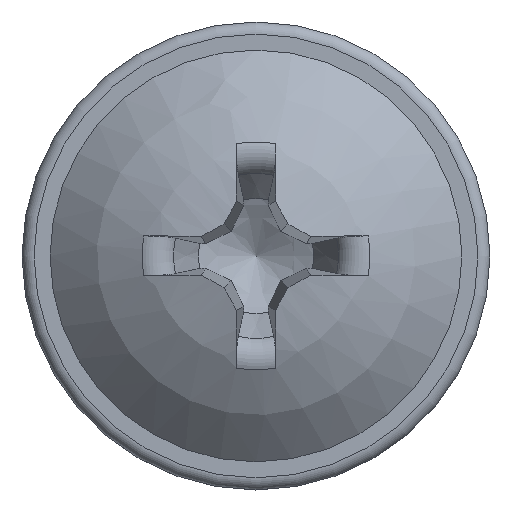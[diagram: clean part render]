
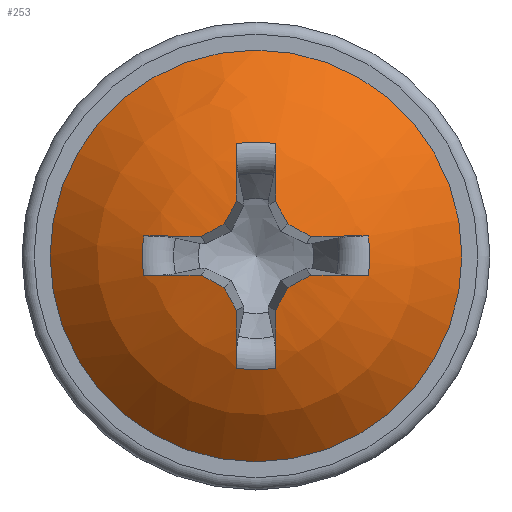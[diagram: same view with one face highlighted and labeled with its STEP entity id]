
A CAD part, top view. The second image highlights one B-rep face of the part: STEP entity #253.
In plain terms, the highlighted spherical face has radius 9.252 mm.
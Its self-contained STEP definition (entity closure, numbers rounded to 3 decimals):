
#214=SPHERICAL_SURFACE('',#1404,9.252);
#225=FACE_BOUND('',#419,.T.);
#226=FACE_BOUND('',#420,.T.);
#253=ADVANCED_FACE('',(#225,#226),#214,.T.);
#419=EDGE_LOOP('',(#582));
#420=EDGE_LOOP('',(#583,#584,#585,#586,#587,#588,#589,#590,#591,#592,#593,
#594,#595,#596,#597,#598,#599,#600,#601,#602));
#514=CIRCLE('',#1383,6.82);
#515=CIRCLE('',#1384,9.25);
#516=CIRCLE('',#1385,3.776);
#517=CIRCLE('',#1386,9.25);
#518=CIRCLE('',#1387,9.238);
#519=CIRCLE('',#1388,9.238);
#520=CIRCLE('',#1389,9.25);
#521=CIRCLE('',#1390,3.776);
#522=CIRCLE('',#1391,9.25);
#523=CIRCLE('',#1392,9.238);
#524=CIRCLE('',#1393,9.238);
#525=CIRCLE('',#1394,9.25);
#526=CIRCLE('',#1395,3.776);
#527=CIRCLE('',#1396,9.25);
#528=CIRCLE('',#1397,9.238);
#529=CIRCLE('',#1398,9.238);
#530=CIRCLE('',#1399,9.25);
#531=CIRCLE('',#1400,3.776);
#532=CIRCLE('',#1401,9.25);
#533=CIRCLE('',#1402,9.238);
#534=CIRCLE('',#1403,9.238);
#582=ORIENTED_EDGE('',*,*,#1103,.T.);
#583=ORIENTED_EDGE('',*,*,#1104,.F.);
#584=ORIENTED_EDGE('',*,*,#1105,.T.);
#585=ORIENTED_EDGE('',*,*,#1106,.F.);
#586=ORIENTED_EDGE('',*,*,#1107,.F.);
#587=ORIENTED_EDGE('',*,*,#1108,.F.);
#588=ORIENTED_EDGE('',*,*,#1109,.F.);
#589=ORIENTED_EDGE('',*,*,#1110,.T.);
#590=ORIENTED_EDGE('',*,*,#1111,.F.);
#591=ORIENTED_EDGE('',*,*,#1112,.F.);
#592=ORIENTED_EDGE('',*,*,#1113,.F.);
#593=ORIENTED_EDGE('',*,*,#1114,.F.);
#594=ORIENTED_EDGE('',*,*,#1115,.T.);
#595=ORIENTED_EDGE('',*,*,#1116,.F.);
#596=ORIENTED_EDGE('',*,*,#1117,.F.);
#597=ORIENTED_EDGE('',*,*,#1118,.F.);
#598=ORIENTED_EDGE('',*,*,#1119,.F.);
#599=ORIENTED_EDGE('',*,*,#1120,.T.);
#600=ORIENTED_EDGE('',*,*,#1121,.F.);
#601=ORIENTED_EDGE('',*,*,#1122,.F.);
#602=ORIENTED_EDGE('',*,*,#1123,.F.);
#976=VERTEX_POINT('',#2682);
#977=VERTEX_POINT('',#2684);
#978=VERTEX_POINT('',#2685);
#979=VERTEX_POINT('',#2687);
#980=VERTEX_POINT('',#2689);
#981=VERTEX_POINT('',#2691);
#982=VERTEX_POINT('',#2693);
#983=VERTEX_POINT('',#2695);
#984=VERTEX_POINT('',#2697);
#985=VERTEX_POINT('',#2699);
#986=VERTEX_POINT('',#2701);
#987=VERTEX_POINT('',#2703);
#988=VERTEX_POINT('',#2705);
#989=VERTEX_POINT('',#2707);
#990=VERTEX_POINT('',#2709);
#991=VERTEX_POINT('',#2711);
#992=VERTEX_POINT('',#2713);
#993=VERTEX_POINT('',#2715);
#994=VERTEX_POINT('',#2717);
#995=VERTEX_POINT('',#2719);
#996=VERTEX_POINT('',#2721);
#1103=EDGE_CURVE('',#976,#976,#514,.T.);
#1104=EDGE_CURVE('',#977,#978,#515,.T.);
#1105=EDGE_CURVE('',#977,#979,#516,.T.);
#1106=EDGE_CURVE('',#980,#979,#517,.T.);
#1107=EDGE_CURVE('',#981,#980,#518,.T.);
#1108=EDGE_CURVE('',#982,#981,#519,.T.);
#1109=EDGE_CURVE('',#983,#982,#520,.T.);
#1110=EDGE_CURVE('',#983,#984,#521,.T.);
#1111=EDGE_CURVE('',#985,#984,#522,.T.);
#1112=EDGE_CURVE('',#986,#985,#523,.T.);
#1113=EDGE_CURVE('',#987,#986,#524,.T.);
#1114=EDGE_CURVE('',#988,#987,#525,.T.);
#1115=EDGE_CURVE('',#988,#989,#526,.T.);
#1116=EDGE_CURVE('',#990,#989,#527,.T.);
#1117=EDGE_CURVE('',#991,#990,#528,.T.);
#1118=EDGE_CURVE('',#992,#991,#529,.T.);
#1119=EDGE_CURVE('',#993,#992,#530,.T.);
#1120=EDGE_CURVE('',#993,#994,#531,.T.);
#1121=EDGE_CURVE('',#995,#994,#532,.T.);
#1122=EDGE_CURVE('',#996,#995,#533,.T.);
#1123=EDGE_CURVE('',#978,#996,#534,.T.);
#1383=AXIS2_PLACEMENT_3D('',#2681,#1470,#1471);
#1384=AXIS2_PLACEMENT_3D('',#2683,#1472,#1473);
#1385=AXIS2_PLACEMENT_3D('',#2686,#1474,#1475);
#1386=AXIS2_PLACEMENT_3D('',#2688,#1476,#1477);
#1387=AXIS2_PLACEMENT_3D('',#2690,#1478,#1479);
#1388=AXIS2_PLACEMENT_3D('',#2692,#1480,#1481);
#1389=AXIS2_PLACEMENT_3D('',#2694,#1482,#1483);
#1390=AXIS2_PLACEMENT_3D('',#2696,#1484,#1485);
#1391=AXIS2_PLACEMENT_3D('',#2698,#1486,#1487);
#1392=AXIS2_PLACEMENT_3D('',#2700,#1488,#1489);
#1393=AXIS2_PLACEMENT_3D('',#2702,#1490,#1491);
#1394=AXIS2_PLACEMENT_3D('',#2704,#1492,#1493);
#1395=AXIS2_PLACEMENT_3D('',#2706,#1494,#1495);
#1396=AXIS2_PLACEMENT_3D('',#2708,#1496,#1497);
#1397=AXIS2_PLACEMENT_3D('',#2710,#1498,#1499);
#1398=AXIS2_PLACEMENT_3D('',#2712,#1500,#1501);
#1399=AXIS2_PLACEMENT_3D('',#2714,#1502,#1503);
#1400=AXIS2_PLACEMENT_3D('',#2716,#1504,#1505);
#1401=AXIS2_PLACEMENT_3D('',#2718,#1506,#1507);
#1402=AXIS2_PLACEMENT_3D('',#2720,#1508,#1509);
#1403=AXIS2_PLACEMENT_3D('',#2722,#1510,#1511);
#1404=AXIS2_PLACEMENT_3D('',#2723,#1512,#1513);
#1470=DIRECTION('',(0.,0.,1.));
#1471=DIRECTION('',(1.,0.,0.));
#1472=DIRECTION('',(-0.996,-0.035,0.087));
#1473=DIRECTION('',(0.087,0.,0.996));
#1474=DIRECTION('',(0.,0.,-1.));
#1475=DIRECTION('',(-1.,0.,0.));
#1476=DIRECTION('',(0.996,-0.035,0.087));
#1477=DIRECTION('',(0.087,0.,-0.996));
#1478=DIRECTION('',(0.879,0.467,0.1));
#1479=DIRECTION('',(-0.469,0.883,0.));
#1480=DIRECTION('',(0.467,0.879,0.1));
#1481=DIRECTION('',(-0.883,0.469,0.));
#1482=DIRECTION('',(-0.035,0.996,0.087));
#1483=DIRECTION('',(0.,-0.087,0.996));
#1484=DIRECTION('',(0.,0.,-1.));
#1485=DIRECTION('',(-1.,0.,0.));
#1486=DIRECTION('',(-0.035,-0.996,0.087));
#1487=DIRECTION('',(0.,-0.087,-0.996));
#1488=DIRECTION('',(0.467,-0.879,0.1));
#1489=DIRECTION('',(0.883,0.469,0.));
#1490=DIRECTION('',(0.879,-0.467,0.1));
#1491=DIRECTION('',(0.469,0.883,0.));
#1492=DIRECTION('',(0.996,0.035,0.087));
#1493=DIRECTION('',(0.087,0.,-0.996));
#1494=DIRECTION('',(0.,0.,-1.));
#1495=DIRECTION('',(-1.,0.,0.));
#1496=DIRECTION('',(-0.996,0.035,0.087));
#1497=DIRECTION('',(0.087,0.,0.996));
#1498=DIRECTION('',(-0.879,-0.467,0.1));
#1499=DIRECTION('',(0.469,-0.883,0.));
#1500=DIRECTION('',(-0.467,-0.879,0.1));
#1501=DIRECTION('',(0.883,-0.469,0.));
#1502=DIRECTION('',(0.035,-0.996,0.087));
#1503=DIRECTION('',(0.,-0.087,-0.996));
#1504=DIRECTION('',(0.,0.,-1.));
#1505=DIRECTION('',(-1.,0.,0.));
#1506=DIRECTION('',(0.035,0.996,0.087));
#1507=DIRECTION('',(0.,-0.087,0.996));
#1508=DIRECTION('',(-0.467,0.879,0.1));
#1509=DIRECTION('',(-0.883,-0.469,0.));
#1510=DIRECTION('',(-0.879,0.467,0.1));
#1511=DIRECTION('',(-0.469,-0.883,0.));
#1512=DIRECTION('',(0.,0.,1.));
#1513=DIRECTION('',(0.,1.,0.));
#2681=CARTESIAN_POINT('',(0.,0.,1.6));
#2682=CARTESIAN_POINT('',(6.82,0.,1.6));
#2683=CARTESIAN_POINT('',(-0.209,-0.007,-4.634));
#2684=CARTESIAN_POINT('',(0.658,-3.718,3.795));
#2685=CARTESIAN_POINT('',(0.644,-1.809,4.399));
#2686=CARTESIAN_POINT('',(0.,0.,3.795));
#2687=CARTESIAN_POINT('',(-0.658,-3.718,3.795));
#2688=CARTESIAN_POINT('',(0.209,-0.007,-4.634));
#2689=CARTESIAN_POINT('',(-0.644,-1.809,4.399));
#2690=CARTESIAN_POINT('',(-0.443,-0.235,-4.703));
#2691=CARTESIAN_POINT('',(-1.055,-1.055,4.479));
#2692=CARTESIAN_POINT('',(-0.235,-0.443,-4.703));
#2693=CARTESIAN_POINT('',(-1.809,-0.644,4.399));
#2694=CARTESIAN_POINT('',(-0.007,0.209,-4.634));
#2695=CARTESIAN_POINT('',(-3.718,-0.658,3.795));
#2696=CARTESIAN_POINT('',(0.,0.,3.795));
#2697=CARTESIAN_POINT('',(-3.718,0.658,3.795));
#2698=CARTESIAN_POINT('',(-0.007,-0.209,-4.634));
#2699=CARTESIAN_POINT('',(-1.809,0.644,4.399));
#2700=CARTESIAN_POINT('',(-0.235,0.443,-4.703));
#2701=CARTESIAN_POINT('',(-1.055,1.055,4.479));
#2702=CARTESIAN_POINT('',(-0.443,0.235,-4.703));
#2703=CARTESIAN_POINT('',(-0.644,1.809,4.399));
#2704=CARTESIAN_POINT('',(0.209,0.007,-4.634));
#2705=CARTESIAN_POINT('',(-0.658,3.718,3.795));
#2706=CARTESIAN_POINT('',(0.,0.,3.795));
#2707=CARTESIAN_POINT('',(0.658,3.718,3.795));
#2708=CARTESIAN_POINT('',(-0.209,0.007,-4.634));
#2709=CARTESIAN_POINT('',(0.644,1.809,4.399));
#2710=CARTESIAN_POINT('',(0.443,0.235,-4.703));
#2711=CARTESIAN_POINT('',(1.055,1.055,4.479));
#2712=CARTESIAN_POINT('',(0.235,0.443,-4.703));
#2713=CARTESIAN_POINT('',(1.809,0.644,4.399));
#2714=CARTESIAN_POINT('',(0.007,-0.209,-4.634));
#2715=CARTESIAN_POINT('',(3.718,0.658,3.795));
#2716=CARTESIAN_POINT('',(0.,0.,3.795));
#2717=CARTESIAN_POINT('',(3.718,-0.658,3.795));
#2718=CARTESIAN_POINT('',(0.007,0.209,-4.634));
#2719=CARTESIAN_POINT('',(1.809,-0.644,4.399));
#2720=CARTESIAN_POINT('',(0.235,-0.443,-4.703));
#2721=CARTESIAN_POINT('',(1.055,-1.055,4.479));
#2722=CARTESIAN_POINT('',(0.443,-0.235,-4.703));
#2723=CARTESIAN_POINT('',(0.,0.,-4.652));
